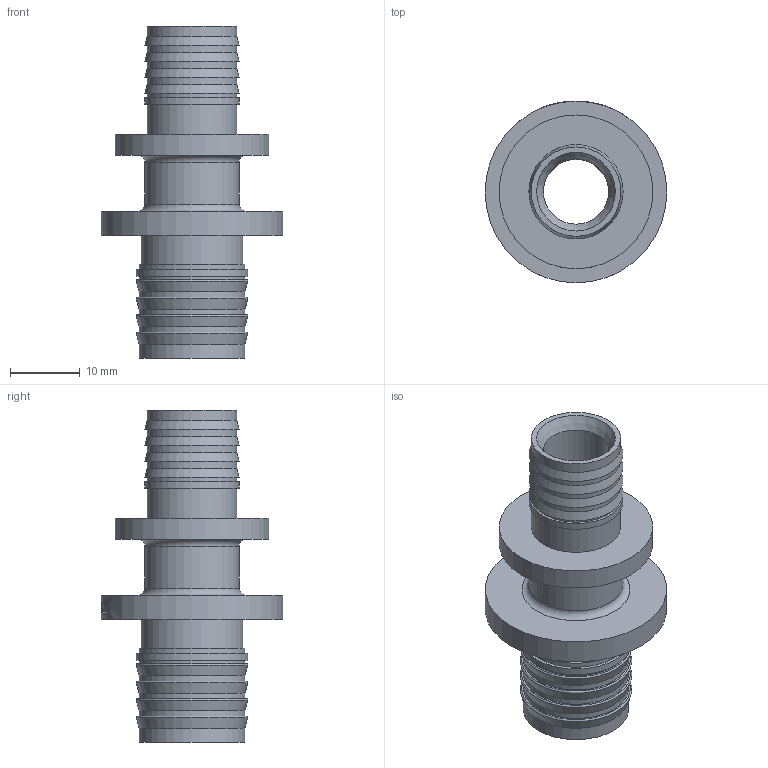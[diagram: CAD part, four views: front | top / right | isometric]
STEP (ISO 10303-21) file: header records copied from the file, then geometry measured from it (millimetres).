
FILE_DESCRIPTION(/* description */ (''),/* implementation_level */ '2;1');
FILE_NAME(/* name */ 'C:\Users\Doom\Desktop\Фадотех\Натяжка\FD-SFM06NEW 16X25 25.12.2019\FADO-SFM06NEW 16X25 25.12.2019.stp',/* time_stamp */ '2022-07-21T18:16:37+03:00',/* author */ ('Doom'),/* organization */ (''),/* preprocessor_version */ 'ST-DEVELOPER v18',/* originating_system */ 'Autodesk Inventor 2020',/* authorisation */ '');
FILE_SCHEMA (('AUTOMOTIVE_DESIGN { 1 0 10303 214 3 1 1 }'));
Length unit declared in the file: millimetre
Products named in the file (1): FADO-SFM06NEW 16X25 25.12.2019
Bounding box: 26 x 26 x 47.5 mm (x, y, z)
Volume: 5655.4 mm3; surface area: 5351.9 mm2
Topology: 1 solids, 1 shells, 163 faces, 452 edges, 316 vertices
Faces by surface type: bspline 61, plane 57, cylinder 28, cone 11, torus 6
Full cylindrical faces by diameter (mm): 9.3 x1, 10.8 x1, 12.8 x6, 13.5 x2, 14.5 x1, 15.1 x6, 16 x1, 22 x1, 26 x1
Entity records: 6756 total; most frequent: CARTESIAN_POINT 2741, ORIENTED_EDGE 904, DIRECTION 700, EDGE_CURVE 452, VERTEX_POINT 316, AXIS2_PLACEMENT_3D 267, EDGE_LOOP 190, LINE 166
